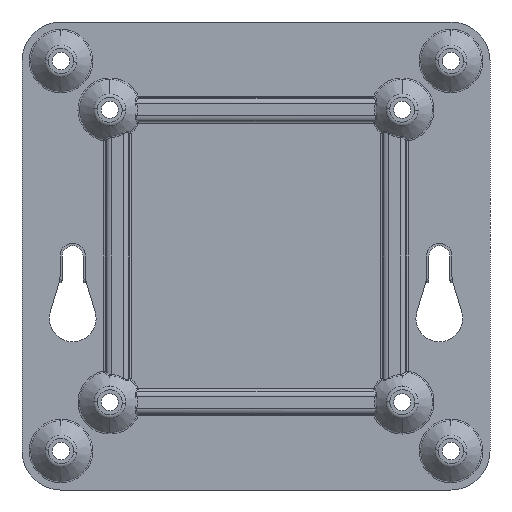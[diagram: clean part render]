
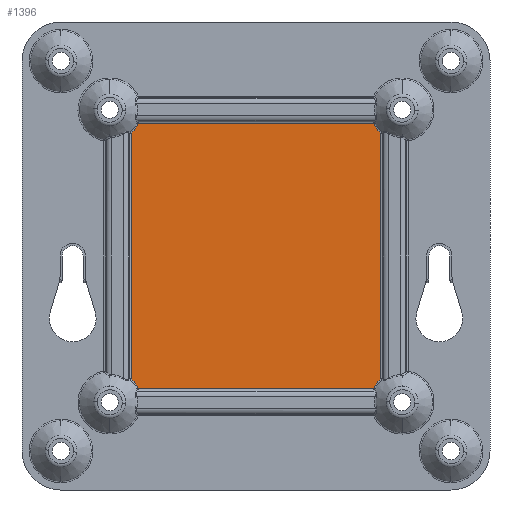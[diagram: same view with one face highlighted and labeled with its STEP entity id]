
A CAD part, front view. The second image highlights one B-rep face of the part: STEP entity #1396.
In plain terms, the highlighted planar face has unit normal (0, -1, 0).
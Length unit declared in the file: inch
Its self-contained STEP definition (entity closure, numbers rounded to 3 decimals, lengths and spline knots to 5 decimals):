
#176 = CIRCLE ( 'NONE', #7613, 0.32075 ) ;
#448 = CARTESIAN_POINT ( 'NONE',  ( 1.75984, -0.48819, -1.47638 ) ) ;
#527 = AXIS2_PLACEMENT_3D ( 'NONE', #1094, #874, #4313 ) ;
#715 = DIRECTION ( 'NONE',  ( -1., 0., 0. ) ) ;
#874 = DIRECTION ( 'NONE',  ( 0., 1., 0. ) ) ;
#920 = CARTESIAN_POINT ( 'NONE',  ( 0., -0.48819, 0. ) ) ;
#1094 = CARTESIAN_POINT ( 'NONE',  ( 1.75984, -0.48819, 1.47638 ) ) ;
#1231 = LINE ( 'NONE', #1873, #3281 ) ;
#1330 = CARTESIAN_POINT ( 'NONE',  ( 1.47014, -0.48819, -1.3387 ) ) ;
#1396 = ADVANCED_FACE ( 'NONE', ( #1629 ), #9197, .T. ) ;
#1402 = CARTESIAN_POINT ( 'NONE',  ( 1.54342, -0.48819, 1.23964 ) ) ;
#1444 = ORIENTED_EDGE ( 'NONE', *, *, #1759, .T. ) ;
#1488 = ORIENTED_EDGE ( 'NONE', *, *, #7159, .T. ) ;
#1598 = EDGE_CURVE ( 'NONE', #6747, #2620, #176, .T. ) ;
#1629 = FACE_OUTER_BOUND ( 'NONE', #2010, .T. ) ;
#1759 = EDGE_CURVE ( 'NONE', #2672, #10965, #4032, .T. ) ;
#1873 = CARTESIAN_POINT ( 'NONE',  ( 1.54342, -0.48819, -1.23964 ) ) ;
#2010 = EDGE_LOOP ( 'NONE', ( #1488, #10831, #5757, #2114, #1444, #3177, #11734, #6011 ) ) ;
#2058 = DIRECTION ( 'NONE',  ( 0., 0., -1. ) ) ;
#2114 = ORIENTED_EDGE ( 'NONE', *, *, #13437, .T. ) ;
#2415 = EDGE_CURVE ( 'NONE', #12689, #11241, #6086, .T. ) ;
#2620 = VERTEX_POINT ( 'NONE', #8283 ) ;
#2672 = VERTEX_POINT ( 'NONE', #3937 ) ;
#2908 = CIRCLE ( 'NONE', #527, 0.32075 ) ;
#3132 = LINE ( 'NONE', #9042, #4617 ) ;
#3177 = ORIENTED_EDGE ( 'NONE', *, *, #11598, .T. ) ;
#3281 = VECTOR ( 'NONE', #12129, 39.37008 ) ;
#3290 = DIRECTION ( 'NONE',  ( 0., -1., 0. ) ) ;
#3461 = CARTESIAN_POINT ( 'NONE',  ( -0.90322, -0.48819, -1.3387 ) ) ;
#3937 = CARTESIAN_POINT ( 'NONE',  ( 1.47014, -0.48819, 1.3387 ) ) ;
#4032 = LINE ( 'NONE', #5525, #8976 ) ;
#4171 = CIRCLE ( 'NONE', #10051, 0.32075 ) ;
#4313 = DIRECTION ( 'NONE',  ( -0.675, 0., -0.738 ) ) ;
#4472 = EDGE_CURVE ( 'NONE', #11241, #11669, #1231, .T. ) ;
#4617 = VECTOR ( 'NONE', #2058, 39.37008 ) ;
#5381 = DIRECTION ( 'NONE',  ( 0., 1., 0. ) ) ;
#5525 = CARTESIAN_POINT ( 'NONE',  ( 1.47014, -0.48819, 1.3387 ) ) ;
#5602 = EDGE_CURVE ( 'NONE', #6851, #6747, #3132, .T. ) ;
#5757 = ORIENTED_EDGE ( 'NONE', *, *, #4472, .T. ) ;
#5901 = CARTESIAN_POINT ( 'NONE',  ( -1.19291, -0.48819, 1.47638 ) ) ;
#6011 = ORIENTED_EDGE ( 'NONE', *, *, #1598, .T. ) ;
#6086 = CIRCLE ( 'NONE', #6687, 0.32075 ) ;
#6607 = DIRECTION ( 'NONE',  ( -1., 0., 0. ) ) ;
#6687 = AXIS2_PLACEMENT_3D ( 'NONE', #448, #8036, #7152 ) ;
#6695 = LINE ( 'NONE', #3461, #6732 ) ;
#6732 = VECTOR ( 'NONE', #10443, 39.37008 ) ;
#6747 = VERTEX_POINT ( 'NONE', #8185 ) ;
#6851 = VERTEX_POINT ( 'NONE', #9536 ) ;
#6919 = CARTESIAN_POINT ( 'NONE',  ( -1.19291, -0.48819, -1.47638 ) ) ;
#7031 = CARTESIAN_POINT ( 'NONE',  ( 1.54342, -0.48819, -1.23964 ) ) ;
#7152 = DIRECTION ( 'NONE',  ( -0.903, 0., 0.429 ) ) ;
#7159 = EDGE_CURVE ( 'NONE', #2620, #12689, #6695, .T. ) ;
#7613 = AXIS2_PLACEMENT_3D ( 'NONE', #6919, #5381, #9775 ) ;
#8036 = DIRECTION ( 'NONE',  ( 0., 1., 0. ) ) ;
#8085 = DIRECTION ( 'NONE',  ( 0.903, 0., -0.429 ) ) ;
#8185 = CARTESIAN_POINT ( 'NONE',  ( -0.97649, -0.48819, -1.23964 ) ) ;
#8283 = CARTESIAN_POINT ( 'NONE',  ( -0.90322, -0.48819, -1.3387 ) ) ;
#8927 = AXIS2_PLACEMENT_3D ( 'NONE', #920, #3290, #715 ) ;
#8976 = VECTOR ( 'NONE', #6607, 39.37008 ) ;
#9042 = CARTESIAN_POINT ( 'NONE',  ( -0.97649, -0.48819, 1.23964 ) ) ;
#9197 = PLANE ( 'NONE',  #8927 ) ;
#9536 = CARTESIAN_POINT ( 'NONE',  ( -0.97649, -0.48819, 1.23964 ) ) ;
#9775 = DIRECTION ( 'NONE',  ( 0.675, 0., 0.738 ) ) ;
#9862 = DIRECTION ( 'NONE',  ( 0., 1., 0. ) ) ;
#10051 = AXIS2_PLACEMENT_3D ( 'NONE', #5901, #9862, #8085 ) ;
#10443 = DIRECTION ( 'NONE',  ( 1., 0., 0. ) ) ;
#10501 = CARTESIAN_POINT ( 'NONE',  ( -0.90322, -0.48819, 1.3387 ) ) ;
#10831 = ORIENTED_EDGE ( 'NONE', *, *, #2415, .T. ) ;
#10965 = VERTEX_POINT ( 'NONE', #10501 ) ;
#11241 = VERTEX_POINT ( 'NONE', #7031 ) ;
#11598 = EDGE_CURVE ( 'NONE', #10965, #6851, #4171, .T. ) ;
#11669 = VERTEX_POINT ( 'NONE', #1402 ) ;
#11734 = ORIENTED_EDGE ( 'NONE', *, *, #5602, .T. ) ;
#12129 = DIRECTION ( 'NONE',  ( 0., 0., 1. ) ) ;
#12689 = VERTEX_POINT ( 'NONE', #1330 ) ;
#13437 = EDGE_CURVE ( 'NONE', #11669, #2672, #2908, .T. ) ;
